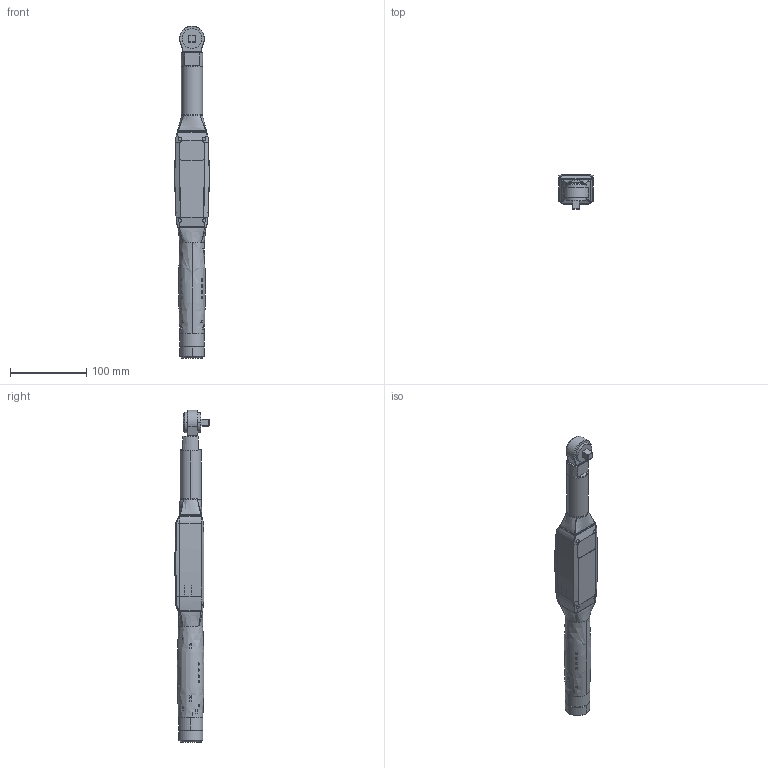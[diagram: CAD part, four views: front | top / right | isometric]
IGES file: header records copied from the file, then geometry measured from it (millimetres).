
Start section:  PTC IGES file: 6159352100_dim.igs
Global section: file name: 6159352100_dim.igs; native system: Creo Parametric by PTC Inc.; preprocessor: 2021072; author: S00000450; organization: Unknown; date: 20210628.094120; units: millimetre
Bounding box: 45.16 x 45.45 x 436.8 mm (x, y, z)
Surface area: 55835.4 mm2 (no closed solid volume)
Topology: 0 solids, 0 shells, 279 faces, 1318 edges, 1314 vertices
Faces by surface type: bspline 174, revolution 95, extrusion 10
